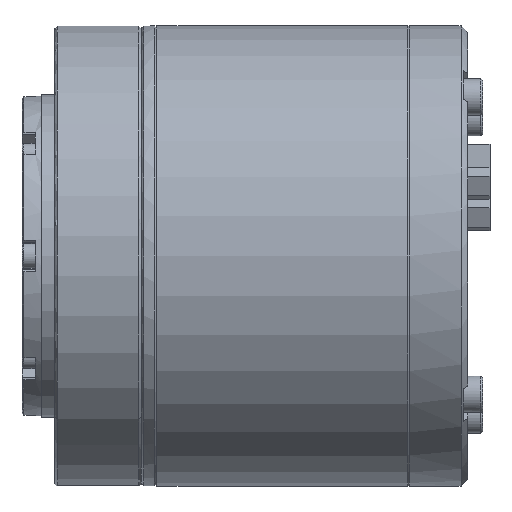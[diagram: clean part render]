
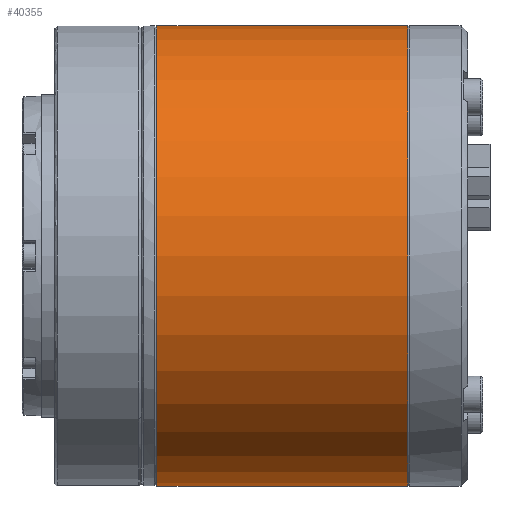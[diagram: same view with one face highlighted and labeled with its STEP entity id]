
A CAD part, front view. The second image highlights one B-rep face of the part: STEP entity #40355.
In plain terms, the highlighted cylindrical face has radius 35 mm (diameter 70 mm), a full revolution.
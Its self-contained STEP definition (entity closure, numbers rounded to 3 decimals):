
#1810 = AXIS2_PLACEMENT_3D ( 'NONE', #18293, #4093, #17819 ) ;
#4093 = DIRECTION ( 'NONE',  ( -1., 0., 0. ) ) ;
#11433 = CIRCLE ( 'NONE', #42671, 35. ) ;
#16205 = DIRECTION ( 'NONE',  ( -1., 0., 0. ) ) ;
#17819 = DIRECTION ( 'NONE',  ( 0., 0., 1. ) ) ;
#18293 = CARTESIAN_POINT ( 'NONE',  ( 64.619, 0., 0. ) ) ;
#19539 = VERTEX_POINT ( 'NONE', #41591 ) ;
#24035 = FACE_OUTER_BOUND ( 'NONE', #34474, .T. ) ;
#27083 = AXIS2_PLACEMENT_3D ( 'NONE', #74954, #16205, #68119 ) ;
#30381 = CARTESIAN_POINT ( 'NONE',  ( 26.519, 0., -35. ) ) ;
#31869 = FACE_OUTER_BOUND ( 'NONE', #43073, .T. ) ;
#34474 = EDGE_LOOP ( 'NONE', ( #43579 ) ) ;
#34663 = CIRCLE ( 'NONE', #1810, 35. ) ;
#34824 = DIRECTION ( 'NONE',  ( -1., 0., 0. ) ) ;
#37840 = EDGE_CURVE ( 'NONE', #90133, #90133, #11433, .T. ) ;
#40355 = ADVANCED_FACE ( 'NONE', ( #24035, #31869 ), #52448, .T. ) ;
#41591 = CARTESIAN_POINT ( 'NONE',  ( 64.619, 0., 35. ) ) ;
#42671 = AXIS2_PLACEMENT_3D ( 'NONE', #57367, #34824, #63281 ) ;
#43073 = EDGE_LOOP ( 'NONE', ( #58121 ) ) ;
#43579 = ORIENTED_EDGE ( 'NONE', *, *, #37840, .F. ) ;
#52448 = CYLINDRICAL_SURFACE ( 'NONE', #27083, 35. ) ;
#57367 = CARTESIAN_POINT ( 'NONE',  ( 26.519, 0., 0. ) ) ;
#58121 = ORIENTED_EDGE ( 'NONE', *, *, #66088, .T. ) ;
#63281 = DIRECTION ( 'NONE',  ( 0., 0., -1. ) ) ;
#66088 = EDGE_CURVE ( 'NONE', #19539, #19539, #34663, .T. ) ;
#68119 = DIRECTION ( 'NONE',  ( 0., 0.383, 0.924 ) ) ;
#74954 = CARTESIAN_POINT ( 'NONE',  ( 73.719, 0., 0. ) ) ;
#90133 = VERTEX_POINT ( 'NONE', #30381 ) ;
